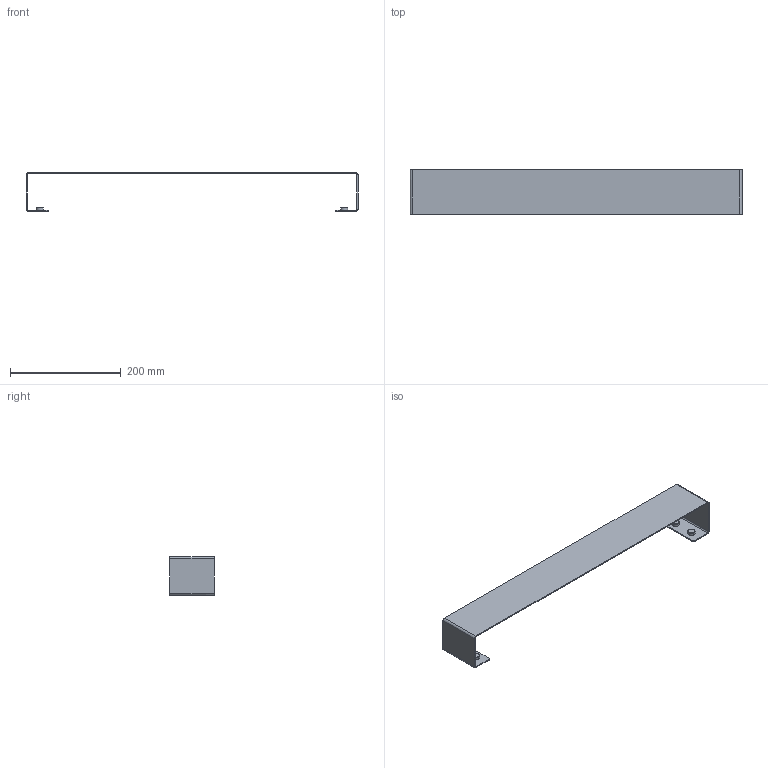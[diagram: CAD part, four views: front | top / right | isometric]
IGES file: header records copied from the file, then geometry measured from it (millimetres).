
Global section: file name: Uchwyt na ręcznik Fionda 60cm,; native system: Autodesk Inventor 2018; preprocessor: unknown; author: Marcel; date: 20200214.152228; units: millimetre
Bounding box: 600 x 80 x 70 mm (x, y, z)
Volume: 131411 mm3; surface area: 133588 mm2
Topology: 1 solids, 1 shells, 62 faces, 136 edges, 84 vertices
Faces by surface type: bspline 62
